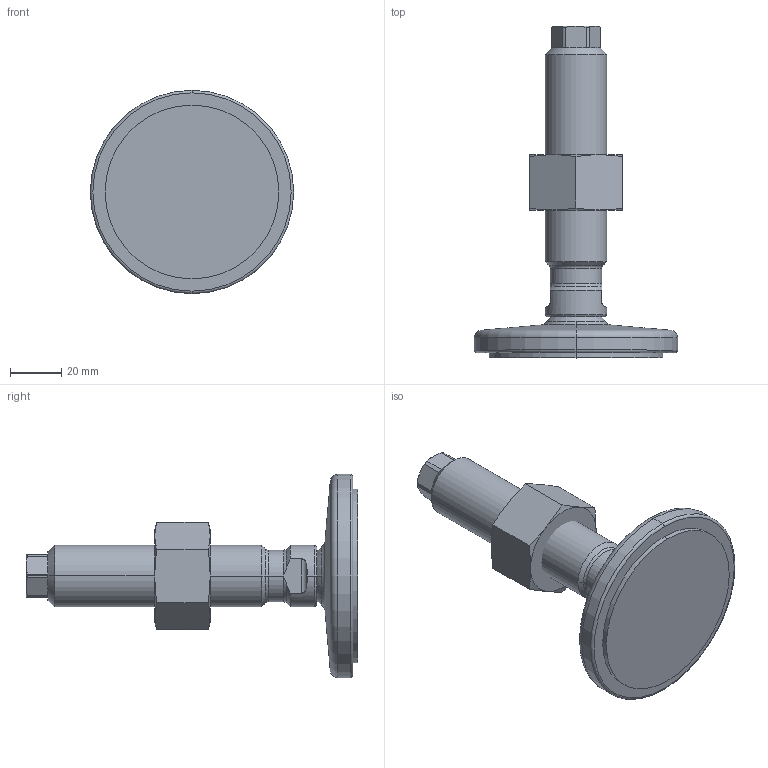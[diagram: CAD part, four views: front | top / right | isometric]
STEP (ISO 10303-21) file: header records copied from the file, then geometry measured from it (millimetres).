
FILE_DESCRIPTION (( 'STEP AP214' ), '1' );
FILE_NAME ('21-80-M24-100-D1-VK.step', '2020-10-02T17:36:35', ( '' ), ( '' ), 'SwSTEP 2.0', 'SolidWorks 2019', '' );
FILE_SCHEMA (( 'AUTOMOTIVE_DESIGN' ));
Length unit declared in the file: millimetre
Products named in the file (4): WB21_Spindel_V^WB21_V_M24-100; 21-80-M24-100-D1-VK; WB21_Fußteller 21^WB21_V_D1-080-R14-B9 (M24); WB4032^WB21_V_M24
Assembly tree (3 placements, depth 2):
  21-80-M24-100-D1-VK
    WB21_Fußteller 21^WB21_V_D1-080-R14-B9 (M24)
    WB21_Spindel_V^WB21_V_M24-100
    WB4032^WB21_V_M24
Bounding box: 79 x 128.9 x 79 mm (x, y, z)
Volume: 119279.3 mm3; surface area: 27013.5 mm2
Topology: 3 solids, 3 shells, 98 faces, 219 edges, 129 vertices
Faces by surface type: cone 29, plane 28, cylinder 27, torus 10, sphere 4
Entity records: 3129 total; most frequent: CARTESIAN_POINT 736, DIRECTION 476, ORIENTED_EDGE 438, EDGE_CURVE 219, AXIS2_PLACEMENT_3D 205, VERTEX_POINT 129, EDGE_LOOP 102, CIRCLE 101
